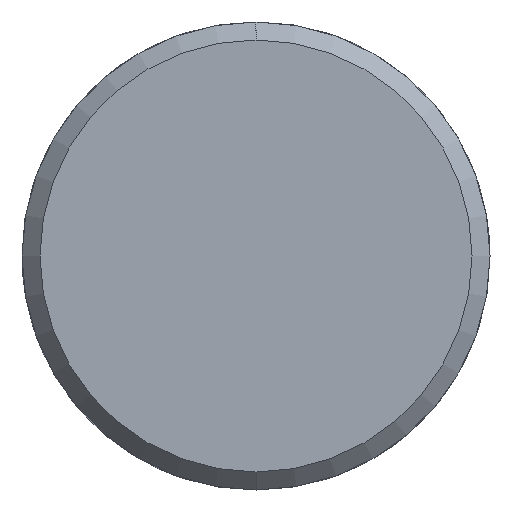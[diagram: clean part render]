
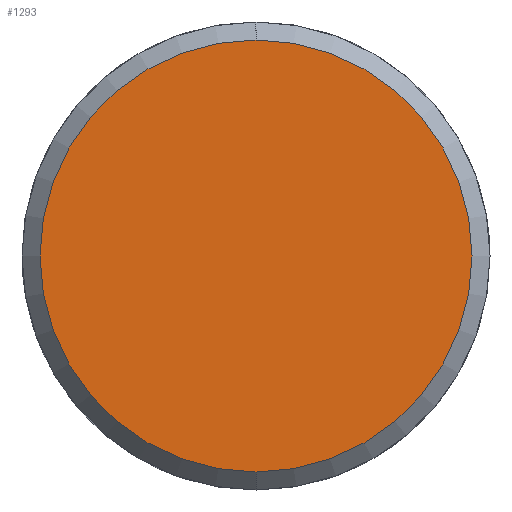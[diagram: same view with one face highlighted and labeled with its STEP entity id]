
A CAD part, left-side view. The second image highlights one B-rep face of the part: STEP entity #1293.
In plain terms, the highlighted planar face has unit normal (-1, 0, 0).
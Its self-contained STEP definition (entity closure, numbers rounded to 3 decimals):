
#1225=CARTESIAN_POINT('Vertex',(-5.,0.,-12.)) ;
#1228=CARTESIAN_POINT('Axis2P3D Location',(-5.,0.,0.)) ;
#1232=CARTESIAN_POINT('Vertex',(-5.,12.,0.)) ;
#1235=CARTESIAN_POINT('Axis2P3D Location',(-5.,0.,0.)) ;
#1239=CARTESIAN_POINT('Vertex',(-5.,0.,12.)) ;
#1261=CARTESIAN_POINT('Axis2P3D Location',(-5.,0.,0.)) ;
#1265=CARTESIAN_POINT('Vertex',(-5.,-12.,0.)) ;
#1268=CARTESIAN_POINT('Axis2P3D Location',(-5.,0.,0.)) ;
#1282=CARTESIAN_POINT('Axis2P3D Location',(-5.,0.,0.)) ;
#1229=DIRECTION('Axis2P3D Direction',(1.,0.,-0.)) ;
#1236=DIRECTION('Axis2P3D Direction',(1.,0.,-0.)) ;
#1262=DIRECTION('Axis2P3D Direction',(1.,0.,-0.)) ;
#1269=DIRECTION('Axis2P3D Direction',(1.,0.,-0.)) ;
#1283=DIRECTION('Axis2P3D Direction',(1.,0.,-0.)) ;
#1284=DIRECTION('Axis2P3D XDirection',(-0.,0.,-1.)) ;
#1230=AXIS2_PLACEMENT_3D('Circle Axis2P3D',#1228,#1229,$) ;
#1237=AXIS2_PLACEMENT_3D('Circle Axis2P3D',#1235,#1236,$) ;
#1263=AXIS2_PLACEMENT_3D('Circle Axis2P3D',#1261,#1262,$) ;
#1270=AXIS2_PLACEMENT_3D('Circle Axis2P3D',#1268,#1269,$) ;
#1285=AXIS2_PLACEMENT_3D('Plane Axis2P3D',#1282,#1283,#1284) ;
#1288=ORIENTED_EDGE('',*,*,#1234,.F.) ;
#1289=ORIENTED_EDGE('',*,*,#1272,.F.) ;
#1290=ORIENTED_EDGE('',*,*,#1267,.F.) ;
#1291=ORIENTED_EDGE('',*,*,#1241,.F.) ;
#1293=ADVANCED_FACE('351-16X36X120',(#1292),#1286,.F.) ;
#1231=CIRCLE('generated circle',#1230,12.) ;
#1238=CIRCLE('generated circle',#1237,12.) ;
#1264=CIRCLE('generated circle',#1263,12.) ;
#1271=CIRCLE('generated circle',#1270,12.) ;
#1234=EDGE_CURVE('',#1226,#1233,#1231,.T.) ;
#1241=EDGE_CURVE('',#1233,#1240,#1238,.T.) ;
#1267=EDGE_CURVE('',#1240,#1266,#1264,.T.) ;
#1272=EDGE_CURVE('',#1266,#1226,#1271,.T.) ;
#1287=EDGE_LOOP('',(#1288,#1289,#1290,#1291)) ;
#1292=FACE_OUTER_BOUND('',#1287,.T.) ;
#1286=PLANE('Plane',#1285) ;
#1226=VERTEX_POINT('',#1225) ;
#1233=VERTEX_POINT('',#1232) ;
#1240=VERTEX_POINT('',#1239) ;
#1266=VERTEX_POINT('',#1265) ;
